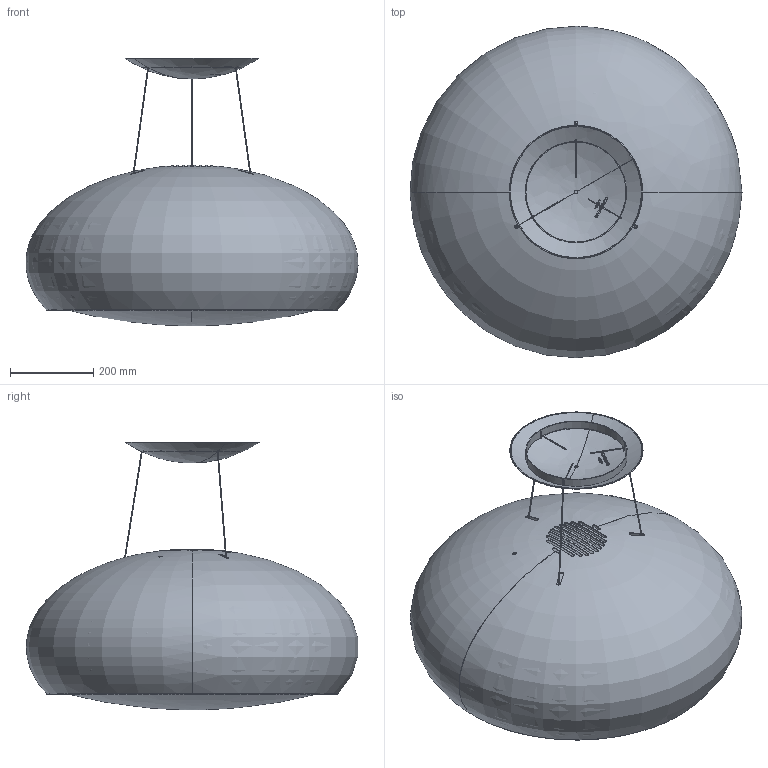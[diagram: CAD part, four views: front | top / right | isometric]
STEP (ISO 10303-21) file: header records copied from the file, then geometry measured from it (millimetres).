
FILE_DESCRIPTION(('STEP AP203'),'2;1');
FILE_NAME('Seashell_2014_11.stp','2014-11-16T11:38:37',(''),(''),'2012.1.115','THINKDESIGN','');
FILE_SCHEMA(('CONFIG_CONTROL_DESIGN'));
Length unit declared in the file: millimetre
Bounding box: 799.54 x 798.07 x 644.3 mm (x, y, z)
Volume: 4262631.9 mm3; surface area: 3808426.9 mm2
Topology: 8 solids, 8 shells, 673 faces, 1920 edges, 1251 vertices
Faces by surface type: plane 475, bspline 150, cylinder 48
Full cylindrical faces by diameter (mm): 618.1 x1, 624.6 x1, 627 x1, 628.1 x1, 630.1 x1
Entity records: 35802 total; most frequent: CARTESIAN_POINT 20925, ORIENTED_EDGE 3820, EDGE_CURVE 1910, DIRECTION 1909, VERTEX_POINT 1251, B_SPLINE_CURVE_WITH_KNOTS 1141, EDGE_LOOP 711, FACE_OUTER_BOUND 673
